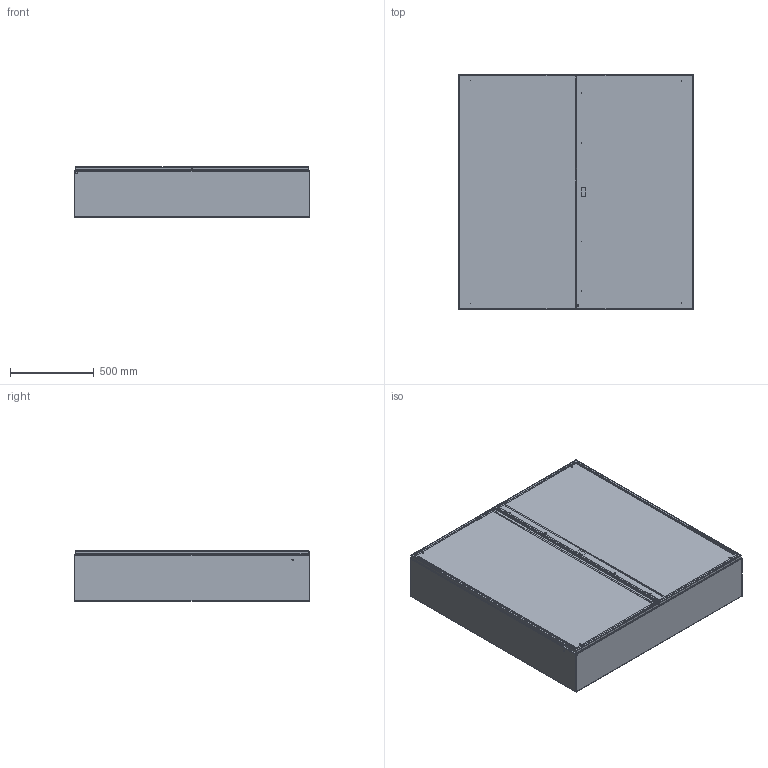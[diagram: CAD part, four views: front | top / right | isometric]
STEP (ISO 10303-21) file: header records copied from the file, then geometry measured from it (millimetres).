
FILE_DESCRIPTION (( 'STEP AP203' ), '1' );
FILE_NAME ('2162010021_semplificato.STEP', '2021-01-08T12:52:01', ( '' ), ( '' ), 'SwSTEP 2.0', 'SolidWorks 2019', '' );
FILE_SCHEMA (( 'CONFIG_CONTROL_DESIGN' ));
Length unit declared in the file: millimetre
Products named in the file (25): 2162010021_06008030201_1400x1400; 2162010021_04008030301_1400x1400; 2162010021_07008030301_1400x1400; 2162010021_05008030301_1400x1400; 2162010021_03008040101_1400x1400; 2162010021_04008010504_1400x1400x0300; 2162010021_06008030301_1400x1400; 2162010021_Dado esagonale flangiato zigrinato DIN6923_Dado  M8 flangiato-zigrinato DIN6923; 2162010021_03008010508_1400x0300; 2162010021_ECOR_Gomma_porta_IB_1400x1400; 2162010021_PERNO FILETTATO A SALDARE DIN32501_M6x15_ramato; 2162010021_00008030006_01; 2162010021_00008030004_23; 2162010021_05008010504_1400x1400x0300; 2162010021_ECOR_Gomma_porta_CB_1200x1400; 2162010021_03008010507_1400x0300; 2162010021_04008030201_1400x1400; 2162010021_semplificato; 2162010021_07008030201_1400x1400; 2162010021_03008010506_1400x1400x0300; 2162010021_03008030201_1400x1400; 2162010021_05008030201_1400x1400; 2162010021_07008040101_1400x1400; 2162010021_03008030301_1400x1400; 2162010021_00008010102_01
Assembly tree (38 placements, depth 6):
  2162010021_semplificato
    2162010021_05008010504_1400x1400x0300
      2162010021_04008010504_1400x1400x0300
        2162010021_03008010506_1400x1400x0300
        2162010021_03008010507_1400x0300
        2162010021_03008010508_1400x0300
        2162010021_PERNO FILETTATO A SALDARE DIN32501_M6x15_ramato  x2
    2162010021_07008040101_1400x1400
      2162010021_03008040101_1400x1400
      2162010021_Dado esagonale flangiato zigrinato DIN6923_Dado  M8 flangiato-zigrinato DIN6923  x4
    2162010021_07008030201_1400x1400
      2162010021_06008030201_1400x1400
        2162010021_05008030201_1400x1400
          2162010021_04008030201_1400x1400
            2162010021_03008030201_1400x1400
            2162010021_00008010102_01  x6
            2162010021_00008030004_23  x2
        2162010021_ECOR_Gomma_porta_IB_1400x1400
    2162010021_07008030301_1400x1400
      2162010021_06008030301_1400x1400
        2162010021_05008030301_1400x1400
          2162010021_04008030301_1400x1400
            2162010021_03008030301_1400x1400
            2162010021_00008010102_01  x2
            2162010021_00008030004_23  x2
        2162010021_ECOR_Gomma_porta_CB_1200x1400
    2162010021_00008030006_01
Bounding box: 1400 x 1400 x 300 mm (x, y, z)
Volume: 14300857.5 mm3; surface area: 15926008.4 mm2
Topology: 83 solids, 83 shells, 1758 faces, 4200 edges, 2613 vertices
Faces by surface type: cylinder 861, plane 608, bspline 122, cone 88, torus 71, sphere 8
Entity records: 34852 total; most frequent: CARTESIAN_POINT 8092, DIRECTION 4987, ORIENTED_EDGE 4848, EDGE_CURVE 2424, AXIS2_PLACEMENT_3D 1878, VERTEX_POINT 1493, EDGE_LOOP 1237, LINE 1231
